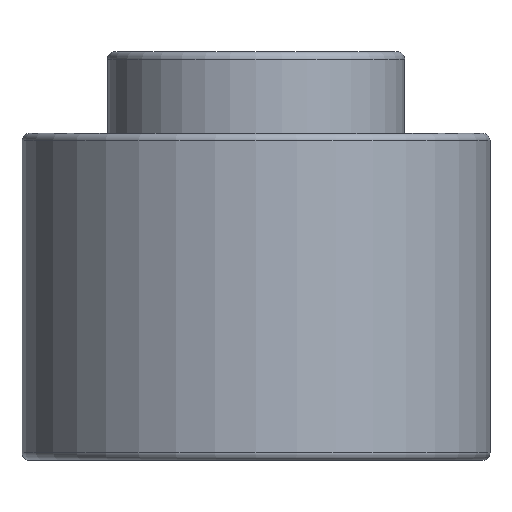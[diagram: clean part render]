
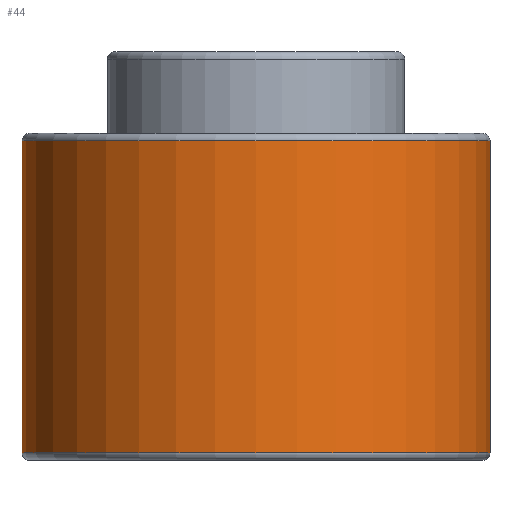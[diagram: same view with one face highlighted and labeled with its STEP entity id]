
A CAD part, front view. The second image highlights one B-rep face of the part: STEP entity #44.
In plain terms, the highlighted cylindrical face has radius 31.5 mm (diameter 63 mm), a full revolution.
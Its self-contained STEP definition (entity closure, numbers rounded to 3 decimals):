
#44=ADVANCED_FACE('',(#60,#61),#56,.T.);
#56=CYLINDRICAL_SURFACE('',#166,31.5);
#60=FACE_BOUND('',#84,.T.);
#61=FACE_BOUND('',#85,.T.);
#84=EDGE_LOOP('',(#106));
#85=EDGE_LOOP('',(#107));
#106=ORIENTED_EDGE('',*,*,#141,.F.);
#107=ORIENTED_EDGE('',*,*,#142,.T.);
#128=VERTEX_POINT('',#237);
#129=VERTEX_POINT('',#239);
#141=EDGE_CURVE('',#128,#128,#152,.T.);
#142=EDGE_CURVE('',#129,#129,#153,.T.);
#152=CIRCLE('',#164,31.5);
#153=CIRCLE('',#165,31.5);
#164=AXIS2_PLACEMENT_3D('',#236,#189,#190);
#165=AXIS2_PLACEMENT_3D('',#238,#191,#192);
#166=AXIS2_PLACEMENT_3D('',#240,#193,#194);
#189=DIRECTION('',(0.,0.,-1.));
#190=DIRECTION('',(-1.,0.,0.));
#191=DIRECTION('',(0.,0.,-1.));
#192=DIRECTION('',(-1.,0.,0.));
#193=DIRECTION('',(0.,0.,-1.));
#194=DIRECTION('',(-1.,0.,0.));
#236=CARTESIAN_POINT('',(0.,0.,1.));
#237=CARTESIAN_POINT('',(-31.5,0.,1.));
#238=CARTESIAN_POINT('',(0.,0.,43.));
#239=CARTESIAN_POINT('',(-31.5,0.,43.));
#240=CARTESIAN_POINT('',(0.,0.,0.));
